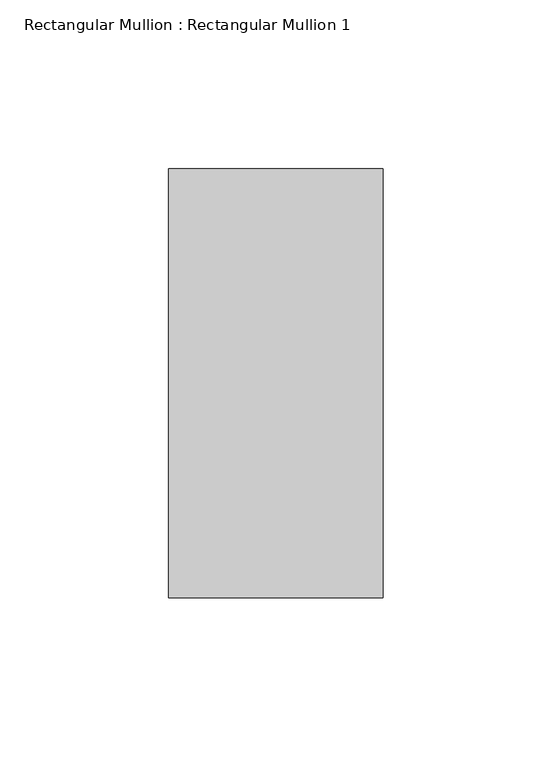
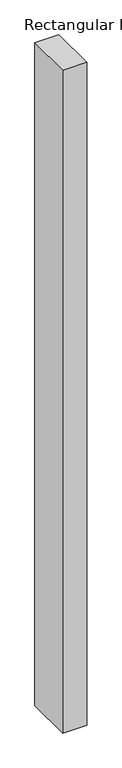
"""IFC4 building model written with IfcOpenShell, lengths in millimetres: member geometry, Rectangular Mullion : Rectangular Mullion 1."""

from ifc_helpers import new_model, si_unit, frame, origin, place, context, project, spatial, polyline, outline, extrude, source, transform, mapped, element, save


def rectangular_mullion_rectangular_mullion_1_65dfae36(model_context):
    return source(origin(), model_context, "Body", "SweptSolid", [
        extrude(outline(polyline([(0.0, 63.5), (0.0, -63.5), (-63.5, -63.5), (-63.5, 63.5), (0.0, 63.5)])), frame((0.0, 0.0, -1854.75), z_axis=(0.0, 0.0, 1.0), x_axis=(1.0, 0.0, 0.0)), (0.0, 0.0, 1.0), 1854.75),
    ])


if __name__ == "__main__":
    model = new_model("IFC4")
    model_context = context("Model", 3, world=origin())
    ifc_project = project(units=[si_unit("LENGTHUNIT", "METRE", prefix="MILLI")], contexts=[model_context])
    site = spatial("IfcSite", under=ifc_project)
    building = spatial("IfcBuilding", under=site)
    placement = place(None, origin())
    rectangular_mullion_rectangular_mullion_1_shape = rectangular_mullion_rectangular_mullion_1_65dfae36(model_context)
    element("IfcMember", 1, ObjectType="Rectangular Mullion : Rectangular Mullion 1", at=placement, inside=building, context=model_context, shape_type="MappedRepresentation", body=[
        mapped(rectangular_mullion_rectangular_mullion_1_shape, transform((0.0, 0.0, 0.0), x_axis=(1.0, 0.0, 0.0), y_axis=(0.0, 1.0, 0.0), z_axis=(0.0, 0.0, 1.0))),
    ])
    save(model, "model.ifc")
